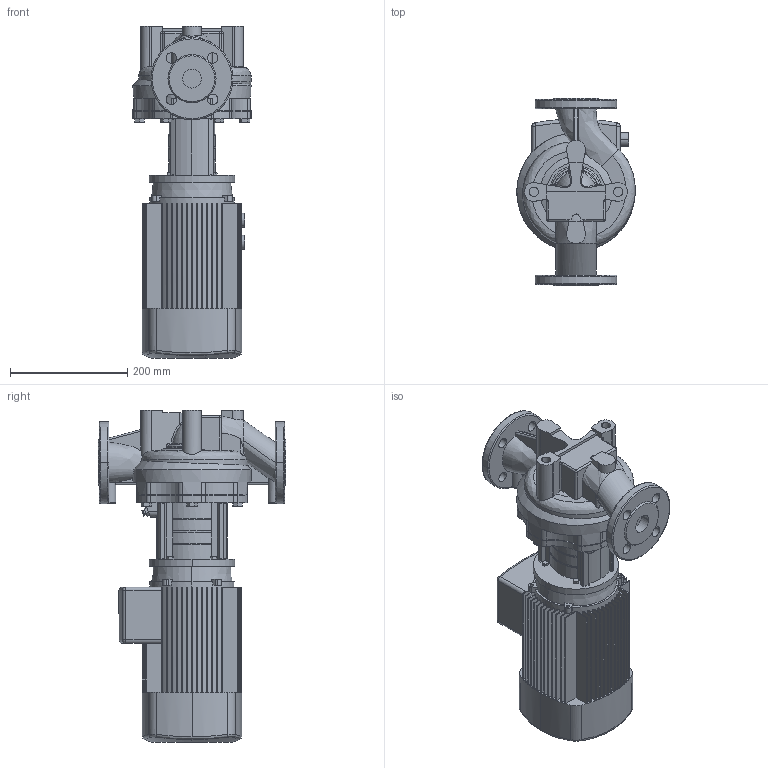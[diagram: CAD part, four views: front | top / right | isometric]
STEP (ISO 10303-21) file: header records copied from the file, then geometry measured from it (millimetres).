
FILE_DESCRIPTION (( 'STEP AP203' ), '1' );
FILE_NAME ('TD32-21G／2.STEP', '2026-09-07T01:39:15', ( '' ), ( '' ), 'SwSTEP 2.0', 'SolidWorks 2020', '' );
FILE_SCHEMA (( 'CONFIG_CONTROL_DESIGN' ));
Length unit declared in the file: millimetre
Products named in the file (1): TD32-21Gㄞ2
Bounding box: 201.98 x 320 x 567 mm (x, y, z)
Volume: 12004198.3 mm3; surface area: 835104.4 mm2
Topology: 1 solids, 8 shells, 994 faces, 2628 edges, 1688 vertices
Faces by surface type: plane 494, cylinder 269, cone 102, bspline 62, torus 57, sphere 10
Entity records: 41115 total; most frequent: CARTESIAN_POINT 16772, ORIENTED_EDGE 5240, DIRECTION 4960, EDGE_CURVE 2620, AXIS2_PLACEMENT_3D 1907, VERTEX_POINT 1688, LINE 1146, VECTOR 1146
